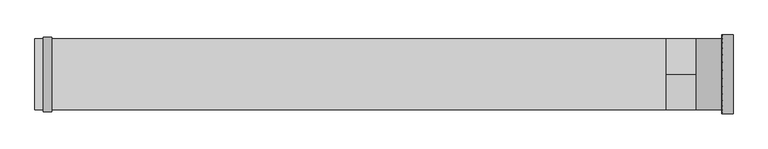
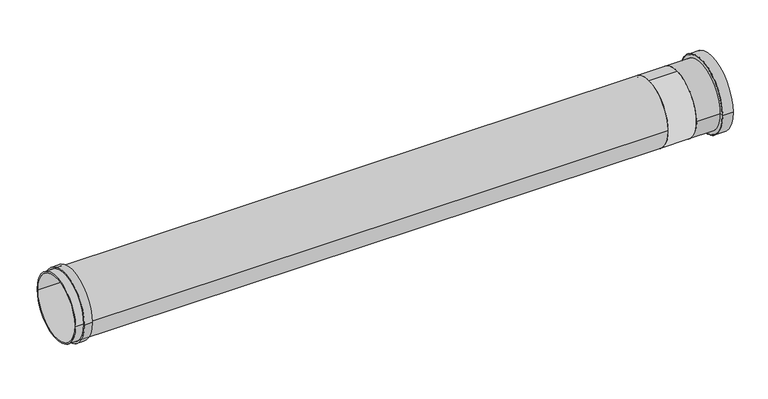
"""IFC4 building model written with IfcOpenShell, lengths in millimetres: pipe fitting geometry, NLRS-90-PIF_Wavin PVC Buitenriolering Wavinflex : 160-160."""

from ifc_helpers import new_model, si_unit, point, frame, origin, origin_2d, place, context, project, spatial, polyline, circle_curve, ellipse_curve, trimmed, segment, composite_curve, outline, extrude, source, transform, mapped, element, save
from ifc_brep_helpers import plane_surface, cylinder_surface, revolved_surface, advanced_brep


def pipe_fitting_cb8fc429(model_context):
    return source(origin(), model_context, "Body", "SolidModel", [
        advanced_brep(
        [(61.1, -84.0, 0.0), (61.1, 84.0, 0.0), (60.1, 84.0, 0.0), (60.1, -84.0, 0.0), (61.1, -92.7, 0.0), (61.1, 92.7, 0.0), (87.0, -92.7, 0.0), (87.0, 92.7, 0.0), (87.0, -93.7, 0.0), (87.0, 93.7, 0.0), (61.1268321, -93.7, 0.0), (61.1268321, 93.7, 0.0), (60.1, 92.6731679, 0.0), (60.1, -92.6731679, 0.0)],
        [
            (0, 1, circle_curve(frame((61.1, 0.0, 0.0), z_axis=(1.0, 0.0, 0.0), x_axis=(0.0, 1.0, 0.0)), 84.0)),
            (1, 2),
            (2, 3, circle_curve(frame((60.1, 0.0, 0.0), z_axis=(-1.0, 0.0, 0.0), x_axis=(0.0, 1.0, 0.0)), 84.0)),
            (3, 0),
            (1, 0, circle_curve(frame((61.1, 0.0, 0.0), z_axis=(1.0, 0.0, 0.0), x_axis=(0.0, 1.0, 0.0)), 84.0)),
            (3, 2, circle_curve(frame((60.1, 0.0, 0.0), z_axis=(-1.0, 0.0, 0.0), x_axis=(0.0, 1.0, 0.0)), 84.0)),
            (4, 5, circle_curve(frame((61.1, 0.0, 0.0), z_axis=(1.0, 0.0, 0.0), x_axis=(0.0, 1.0, 0.0)), 92.7)),
            (5, 1),
            (0, 4),
            (5, 4, circle_curve(frame((61.1, 0.0, 0.0), z_axis=(1.0, 0.0, 0.0), x_axis=(0.0, 1.0, 0.0)), 92.7)),
            (6, 7, circle_curve(frame((87.0, 0.0, 0.0), z_axis=(1.0, 0.0, 0.0), x_axis=(0.0, 1.0, 0.0)), 92.7)),
            (7, 5),
            (4, 6),
            (7, 6, circle_curve(frame((87.0, 0.0, 0.0), z_axis=(1.0, 0.0, 0.0), x_axis=(0.0, 1.0, 0.0)), 92.7)),
            (8, 9, circle_curve(frame((87.0, 0.0, 0.0), z_axis=(1.0, 0.0, 0.0), x_axis=(0.0, 1.0, 0.0)), 93.7)),
            (9, 7),
            (6, 8),
            (9, 8, circle_curve(frame((87.0, 0.0, 0.0), z_axis=(1.0, 0.0, 0.0), x_axis=(0.0, 1.0, 0.0)), 93.7)),
            (10, 11, circle_curve(frame((61.1268321, 0.0, 0.0), z_axis=(1.0, 0.0, 0.0), x_axis=(0.0, 1.0, 0.0)), 93.7)),
            (11, 9),
            (8, 10),
            (11, 10, circle_curve(frame((61.1268321, 0.0, 0.0), z_axis=(1.0, 0.0, 0.0), x_axis=(0.0, 1.0, 0.0)), 93.7)),
            (2, 12),
            (12, 13, circle_curve(frame((60.1, 0.0, 0.0), z_axis=(-1.0, 0.0, 0.0), x_axis=(0.0, 1.0, 0.0)), 92.6731679)),
            (13, 3),
            (13, 12, circle_curve(frame((60.1, 0.0, 0.0), z_axis=(-1.0, 0.0, 0.0), x_axis=(0.0, 1.0, 0.0)), 92.6731679)),
            (12, 11, circle_curve(frame((61.1268321, 92.6731679, 0.0), z_axis=(0.0, 0.0, -1.0), x_axis=(1.0, 0.0, 0.0)), 1.0268321)),
            (10, 13, circle_curve(frame((61.1268321, -92.6731679, 0.0), z_axis=(0.0, 0.0, -1.0), x_axis=(1.0, 0.0, 0.0)), 1.0268321)),
        ],
        [
            revolved_surface(polyline([(60.09999999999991, 84.0, 0.0), (61.09999999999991, 84.0, 0.0)]), (1862.0, 0.0, 0.0), (-1.0, 0.0, 0.0)),
            plane_surface(frame((61.1, 0.0, 0.0), z_axis=(1.0, 0.0, 0.0), x_axis=(0.0, 1.0, 0.0))),
            revolved_surface(polyline([(61.09999999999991, 92.7, 0.0), (87.0, 92.7, 0.0)]), (1862.0, 0.0, 0.0), (-1.0, 0.0, 0.0)),
            plane_surface(frame((87.0, 0.0, 0.0), z_axis=(1.0, 0.0, 0.0), x_axis=(0.0, 1.0, 0.0))),
            cylinder_surface(frame((1862.0, 0.0, 0.0), z_axis=(-1.0, 0.0, 0.0), x_axis=(0.0, 1.0, 0.0)), 93.7),
            plane_surface(frame((60.1, 0.0, 0.0), z_axis=(-1.0, 0.0, 0.0), x_axis=(0.0, 1.0, 0.0))),
            revolved_surface(trimmed(ellipse_curve(frame((61.1268321, 92.6731679, 0.0), z_axis=(0.0, 0.0, 1.0), x_axis=(1.0, 0.0, 0.0)), 1.0268321, 1.0268321), [point((61.1268321, 93.7, 0.0))], [point((60.1, 92.6731679, 0.0))], True, "CARTESIAN"), (1862.0, 0.0, 0.0), (-1.0, 0.0, 0.0)),
        ],
        [
            (0, [[1, 2, 3, 4]]),
            (0, [[5, -4, 6, -2]]),
            (1, [[7, 8, -1, 9]]),
            (1, [[10, -9, -5, -8]]),
            (2, [[11, 12, -7, 13]]),
            (2, [[14, -13, -10, -12]]),
            (3, [[15, 16, -11, 17]]),
            (3, [[18, -17, -14, -16]]),
            (4, [[19, 20, -15, 21]]),
            (4, [[22, -21, -18, -20]]),
            (5, [[-3, 23, 24, 25]]),
            (5, [[-6, -25, 26, -23]]),
            (6, [[-24, 27, -19, 28]]),
            (6, [[-26, -28, -22, -27]]),
        ],
    ),
        advanced_brep(
        [(87.0, -80.0, 0.0), (87.0, 80.0, 0.0), (-6.9282032, 80.0, 0.0), (-6.9282032, -80.0, 0.0), (87.0, -92.7, 0.0), (87.0, 92.7, 0.0), (61.1, -92.7, 0.0), (61.1, 92.7, 0.0), (61.1, -84.0, 0.0), (61.1, 84.0, 0.0), (0.0, -84.0, 0.0), (0.0, 84.0, 0.0)],
        [
            (0, 1, circle_curve(frame((87.0, 0.0, 0.0), z_axis=(1.0, 0.0, 0.0), x_axis=(0.0, 1.0, 0.0)), 80.0)),
            (1, 2),
            (2, 3, circle_curve(frame((-6.9282032, 0.0, 0.0), z_axis=(-1.0, 0.0, 0.0), x_axis=(0.0, 1.0, 0.0)), 80.0)),
            (3, 0),
            (1, 0, circle_curve(frame((87.0, 0.0, 0.0), z_axis=(1.0, 0.0, 0.0), x_axis=(0.0, 1.0, 0.0)), 80.0)),
            (3, 2, circle_curve(frame((-6.9282032, 0.0, 0.0), z_axis=(-1.0, 0.0, 0.0), x_axis=(0.0, 1.0, 0.0)), 80.0)),
            (4, 5, circle_curve(frame((87.0, 0.0, 0.0), z_axis=(1.0, 0.0, 0.0), x_axis=(0.0, 1.0, 0.0)), 92.7)),
            (5, 1),
            (0, 4),
            (5, 4, circle_curve(frame((87.0, 0.0, 0.0), z_axis=(1.0, 0.0, 0.0), x_axis=(0.0, 1.0, 0.0)), 92.7)),
            (6, 7, circle_curve(frame((61.1, 0.0, 0.0), z_axis=(1.0, 0.0, 0.0), x_axis=(0.0, 1.0, 0.0)), 92.7)),
            (7, 5),
            (4, 6),
            (7, 6, circle_curve(frame((61.1, 0.0, 0.0), z_axis=(1.0, 0.0, 0.0), x_axis=(0.0, 1.0, 0.0)), 92.7)),
            (8, 9, circle_curve(frame((61.1, 0.0, 0.0), z_axis=(1.0, 0.0, 0.0), x_axis=(0.0, 1.0, 0.0)), 84.0)),
            (9, 7),
            (6, 8),
            (9, 8, circle_curve(frame((61.1, 0.0, 0.0), z_axis=(1.0, 0.0, 0.0), x_axis=(0.0, 1.0, 0.0)), 84.0)),
            (10, 11, circle_curve(frame((0.0, 0.0, 0.0), z_axis=(1.0, 0.0, 0.0), x_axis=(0.0, 1.0, 0.0)), 84.0)),
            (11, 9),
            (8, 10),
            (11, 10, circle_curve(frame((0.0, 0.0, 0.0), z_axis=(1.0, 0.0, 0.0), x_axis=(0.0, 1.0, 0.0)), 84.0)),
            (2, 11),
            (10, 3),
        ],
        [
            revolved_surface(polyline([(-6.9282031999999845, 80.0, 0.0), (87.0, 80.0, 0.0)]), (-480.3256629, 0.0, 0.0), (-1.0, 0.0, 0.0)),
            plane_surface(frame((87.0, 0.0, 0.0), z_axis=(1.0, 0.0, 0.0), x_axis=(0.0, 1.0, 0.0))),
            cylinder_surface(frame((-480.3256629, 0.0, 0.0), z_axis=(-1.0, 0.0, 0.0), x_axis=(0.0, 1.0, 0.0)), 92.7),
            plane_surface(frame((61.1, 0.0, 0.0), z_axis=(-1.0, 0.0, 0.0), x_axis=(0.0, 1.0, 0.0))),
            cylinder_surface(frame((-480.3256629, 0.0, 0.0), z_axis=(-1.0, 0.0, 0.0), x_axis=(0.0, 1.0, 0.0)), 84.0),
            revolved_surface(polyline([(0.0, 84.0, 0.0), (-6.9282032, 80.0, 0.0)]), (-480.3256629, 0.0, 0.0), (-1.0, 0.0, 0.0)),
        ],
        [
            (0, [[1, 2, 3, 4]]),
            (0, [[5, -4, 6, -2]]),
            (1, [[7, 8, -1, 9]]),
            (1, [[10, -9, -5, -8]]),
            (2, [[11, 12, -7, 13]]),
            (2, [[14, -13, -10, -12]]),
            (3, [[15, 16, -11, 17]]),
            (3, [[18, -17, -14, -16]]),
            (4, [[19, 20, -15, 21]]),
            (4, [[22, -21, -18, -20]]),
            (5, [[-3, 23, -19, 24]]),
            (5, [[-6, -24, -22, -23]]),
        ],
    ),
        extrude(outline(composite_curve([segment(trimmed(circle_curve(origin_2d(), 84.0), [point((0.0, -84.0))], [point((0.0, 84.0))], False, "CARTESIAN"), True, "CONTINUOUS"), segment(trimmed(circle_curve(origin_2d(), 84.0), [point((0.0, 84.0))], [point((0.0, -84.0))], False, "CARTESIAN"), True, "CONTINUOUS")], self_intersect=False)), frame((-72.0, 0.0, 0.0), z_axis=(1.0, 0.0, 0.0), x_axis=(0.0, 1.0, 0.0)), (0.0, 0.0, 1.0), 72.0),
        extrude(outline(composite_curve([segment(trimmed(circle_curve(origin_2d(), 80.0), [point((0.0, -80.0))], [point((0.0, 80.0))], False, "CARTESIAN"), True, "CONTINUOUS"), segment(trimmed(circle_curve(origin_2d(), 80.0), [point((0.0, 80.0))], [point((0.0, -80.0))], False, "CARTESIAN"), True, "CONTINUOUS")], self_intersect=False)), frame((-167.5, 0.0, 0.0), z_axis=(1.0, 0.0, 0.0), x_axis=(0.0, 1.0, 0.0)), (0.0, 0.0, 1.0), 95.5),
        extrude(outline(composite_curve([segment(trimmed(circle_curve(origin_2d(), 88.3), [point((88.3, 0.0))], [point((-88.3, 0.0))], False, "CARTESIAN"), True, "CONTINUOUS"), segment(trimmed(circle_curve(origin_2d(), 88.3), [point((-88.3, 0.0))], [point((88.3, 0.0))], False, "CARTESIAN"), True, "CONTINUOUS")], self_intersect=False), holes=[composite_curve([segment(trimmed(circle_curve(origin_2d(), 84.0), [point((84.0, 0.0))], [point((-84.0, 0.0))], True, "CARTESIAN"), True, "CONTINUOUS"), segment(trimmed(circle_curve(origin_2d(), 84.0), [point((-84.0, 0.0))], [point((84.0, 0.0))], True, "CARTESIAN"), True, "CONTINUOUS")], self_intersect=False)]), frame((-1552.0, 0.0, 0.0), z_axis=(1.0, 0.0, 0.0), x_axis=(0.0, 1.0, 0.0)), (0.0, 0.0, 1.0), 20.0),
        extrude(outline(composite_curve([segment(trimmed(circle_curve(origin_2d(), 84.0), [point((-84.0, 0.0))], [point((84.0, 0.0))], False, "CARTESIAN"), True, "CONTINUOUS"), segment(trimmed(circle_curve(origin_2d(), 84.0), [point((84.0, 0.0))], [point((-84.0, 0.0))], False, "CARTESIAN"), True, "CONTINUOUS")], self_intersect=False), holes=[composite_curve([segment(trimmed(circle_curve(origin_2d(), 80.0), [point((-80.0, 0.0))], [point((80.0, 0.0))], True, "CARTESIAN"), True, "CONTINUOUS"), segment(trimmed(circle_curve(origin_2d(), 80.0), [point((80.0, 0.0))], [point((-80.0, 0.0))], True, "CARTESIAN"), True, "CONTINUOUS")], self_intersect=False)]), frame((-1572.0, 0.0, 0.0), z_axis=(1.0, 0.0, 0.0), x_axis=(0.0, 1.0, 0.0)), (0.0, 0.0, 1.0), 1500.0),
    ])


if __name__ == "__main__":
    model = new_model("IFC4")
    model_context = context("Model", 3, world=origin())
    ifc_project = project(units=[si_unit("LENGTHUNIT", "METRE", prefix="MILLI")], contexts=[model_context])
    site = spatial("IfcSite", under=ifc_project)
    building = spatial("IfcBuilding", under=site)
    placement = place(None, origin())
    pipe_fitting_shape = pipe_fitting_cb8fc429(model_context)
    element("IfcPipeFitting", 1, ObjectType="NLRS-90-PIF_Wavin PVC Buitenriolering Wavinflex : 160-160", at=placement, inside=building, context=model_context, shape_type="MappedRepresentation", body=[
        mapped(pipe_fitting_shape, transform((0.0, 0.0, 0.0), x_axis=(1.0, 0.0, 0.0), y_axis=(0.0, 1.0, 0.0), z_axis=(0.0, 0.0, 1.0))),
    ])
    save(model, "model.ifc")
